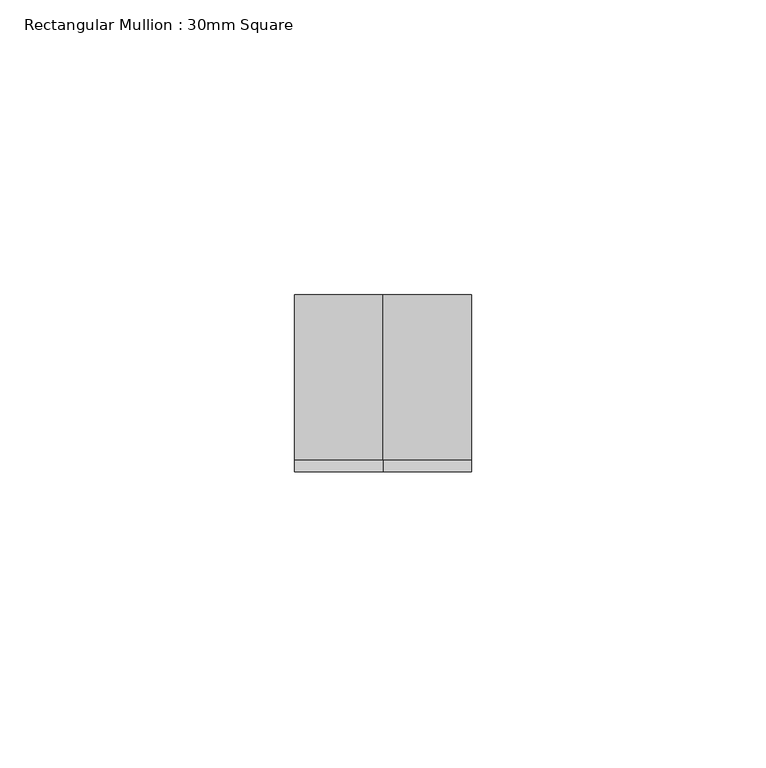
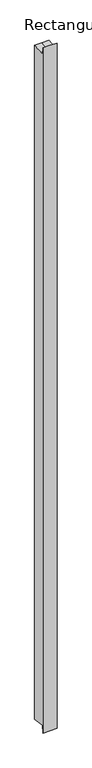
"""IFC4 building model written with IfcOpenShell, lengths in millimetres: member geometry, Rectangular Mullion : 30mm Square."""

from ifc_helpers import new_model, si_unit, origin, place, context, project, spatial, faceted_brep, source, transform, mapped, element, save


def rectangular_mullion_30mm_square_fb254f26(model_context):
    return source(origin(), model_context, "Body", "Brep", [
        faceted_brep([(-15.0, 15.0, 1.7712434), (0.0, 15.0, 1.7712434), (15.0, 15.0, 1.7712434), (15.0, 15.0, -1495.7712434), (0.0, 15.0, -1495.7712434), (-15.0, 15.0, -1495.7712434), (-15.0, -15.0, 14.058809), (-15.0, -13.0073511, -1.7573511), (-15.0, -13.0073511, -1492.2426489), (-15.0, -15.0, -1508.058809), (15.0, -15.0, 14.058809), (0.0, -15.0, 14.058809), (0.0, -15.0, -1508.058809), (15.0, -15.0, -1508.058809), (15.0, -13.0073511, -1.7573511), (15.0, -13.0073511, -1492.2426489), (0.0, -13.0073511, -1.7573511), (0.0, -13.0073511, -1492.2426489)], [[[0, 1, 2, 3, 4, 5]], [[6, 7, 0, 5, 8, 9]], [[10, 11, 6, 9, 12, 13]], [[2, 14, 10, 13, 15, 3]], [[2, 1, 16, 14]], [[1, 0, 7, 16]], [[7, 6, 11, 16]], [[11, 10, 14, 16]], [[3, 15, 17, 4]], [[15, 13, 12, 17]], [[12, 9, 8, 17]], [[8, 5, 4, 17]]]),
    ])


if __name__ == "__main__":
    model = new_model("IFC4")
    model_context = context("Model", 3, world=origin())
    ifc_project = project(units=[si_unit("LENGTHUNIT", "METRE", prefix="MILLI")], contexts=[model_context])
    site = spatial("IfcSite", under=ifc_project)
    building = spatial("IfcBuilding", under=site)
    placement = place(None, origin())
    rectangular_mullion_30mm_square_shape = rectangular_mullion_30mm_square_fb254f26(model_context)
    element("IfcMember", 1, ObjectType="Rectangular Mullion : 30mm Square", at=placement, inside=building, context=model_context, shape_type="MappedRepresentation", body=[
        mapped(rectangular_mullion_30mm_square_shape, transform((0.0, 0.0, 0.0), x_axis=(1.0, 0.0, 0.0), y_axis=(0.0, 1.0, 0.0), z_axis=(0.0, 0.0, 1.0))),
    ])
    save(model, "model.ifc")
